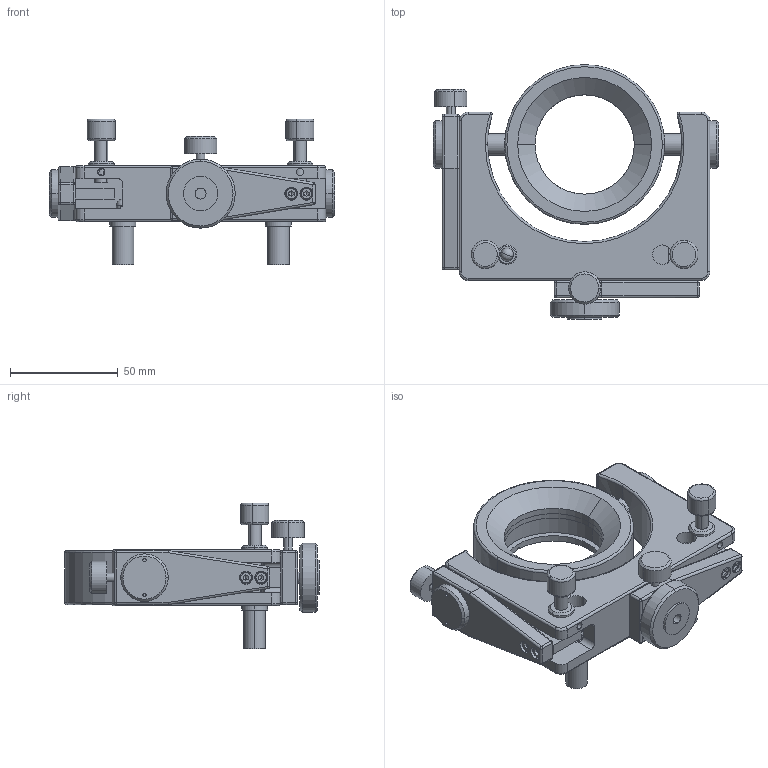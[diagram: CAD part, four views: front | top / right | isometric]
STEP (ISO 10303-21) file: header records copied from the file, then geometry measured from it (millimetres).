
FILE_DESCRIPTION (( 'STEP AP203' ), '1' );
FILE_NAME ('7MM0950謗峎覃淕噩殤.STEP', '2019-10-12T03:33:18', ( '' ), ( '' ), 'SwSTEP 2.0', 'SolidWorks 2014', '' );
FILE_SCHEMA (( 'CONFIG_CONTROL_DESIGN' ));
Length unit declared in the file: millimetre
Products named in the file (1): 7MM0950謗峎覃淕噩殤
Bounding box: 132 x 118 x 67.5 mm (x, y, z)
Surface area: 59209.1 mm2 (no closed solid volume)
Topology: 0 solids, 37 shells, 364 faces, 1014 edges, 640 vertices
Faces by surface type: cylinder 150, plane 119, cone 37, torus 34, sphere 24
Entity records: 12250 total; most frequent: CARTESIAN_POINT 2776, DIRECTION 2177, ORIENTED_EDGE 1685, EDGE_CURVE 984, AXIS2_PLACEMENT_3D 866, VERTEX_POINT 640, CIRCLE 501, LINE 445
